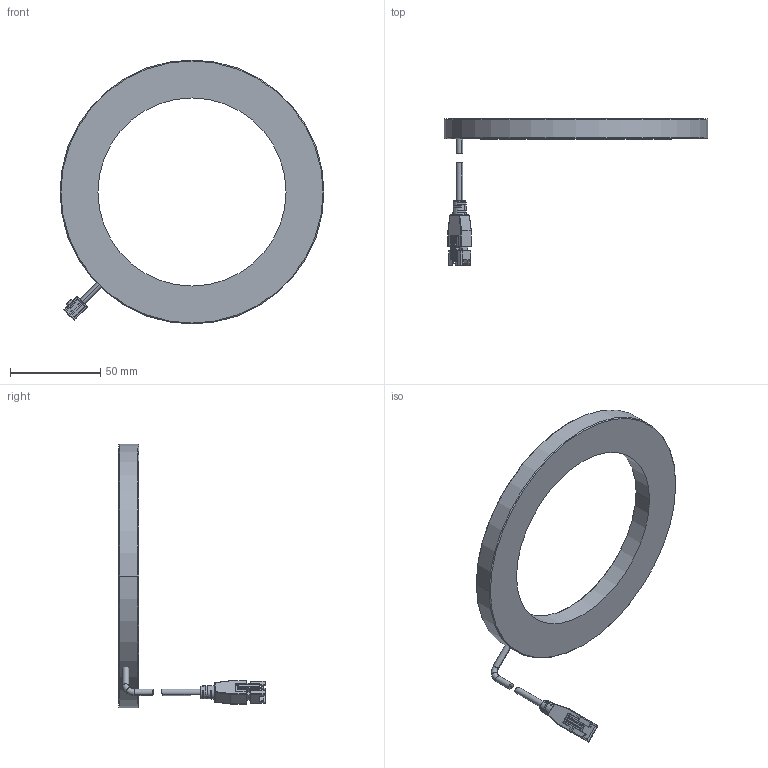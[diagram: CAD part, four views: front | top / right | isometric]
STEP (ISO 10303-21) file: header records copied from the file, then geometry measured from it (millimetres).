
FILE_DESCRIPTION((''),'2;1');
FILE_NAME('MV-LRDS-146-0_ASM','2019-09-19T',('rs-zhongwm'),(''),'PRO/ENGINEER BY PARAMETRIC TECHNOLOGY CORPORATION, 2010100','PRO/ENGINEER BY PARAMETRIC TECHNOLOGY CORPORATION, 2010100','');
FILE_SCHEMA(('CONFIG_CONTROL_DESIGN'));
Length unit declared in the file: millimetre
Products named in the file (5): PRT0050; PRT0051; PRT0052; ASM0029_ASM; MV-LRDS-146-0_ASM
Assembly tree (4 placements, depth 3):
  MV-LRDS-146-0_ASM
    PRT0050
    ASM0029_ASM
      PRT0051
      PRT0052
Bounding box: 146 x 80.8 x 146 mm (x, y, z)
Volume: 92956.5 mm3; surface area: 27525.4 mm2
Topology: 3 solids, 7 shells, 262 faces, 670 edges, 415 vertices
Faces by surface type: plane 133, cylinder 85, cone 16, torus 12, bspline 8, sphere 8
Entity records: 8177 total; most frequent: CARTESIAN_POINT 1737, DIRECTION 1352, ORIENTED_EDGE 1292, EDGE_CURVE 654, AXIS2_PLACEMENT_3D 477, VERTEX_POINT 415, VECTOR 398, LINE 398
